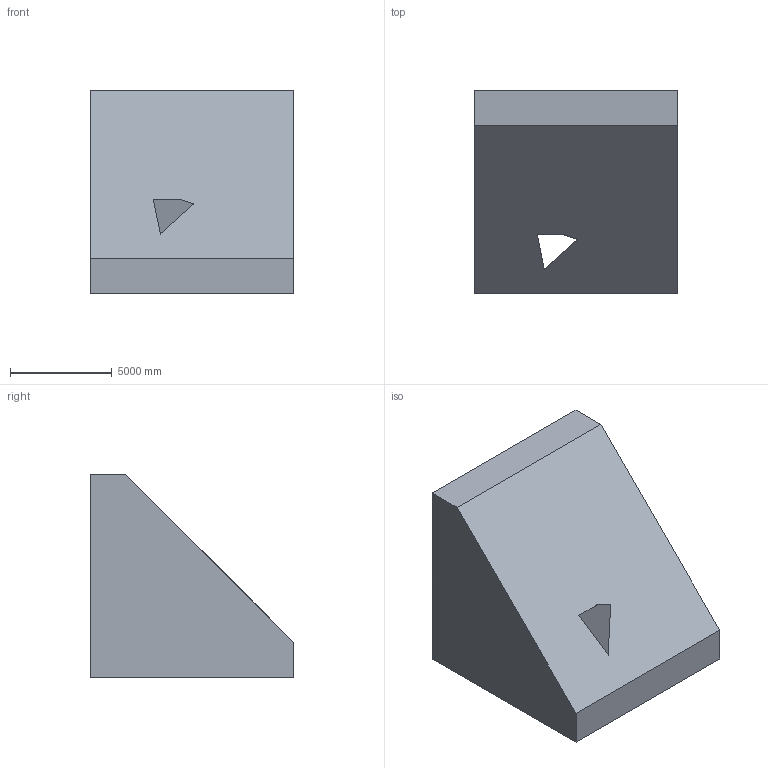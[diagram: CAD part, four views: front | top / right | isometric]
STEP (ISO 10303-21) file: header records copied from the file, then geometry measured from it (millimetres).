
FILE_DESCRIPTION (( 'STEP AP203' ), '1' );
FILE_NAME ('83.STEP', '2022-07-28T13:34:25', ( 'user' ), ( '' ), 'SwSTEP 2.0', 'SolidWorks 2021', '' );
FILE_SCHEMA (( 'CONFIG_CONTROL_DESIGN' ));
Length unit declared in the file: centimetre
Products named in the file (1): 83
Bounding box: 10000 x 10000 x 10000 mm (x, y, z)
Volume: 649804325441.5 mm3; surface area: 506050881.7 mm2
Topology: 1 solids, 1 shells, 11 faces, 27 edges, 18 vertices
Faces by surface type: plane 11
Entity records: 402 total; most frequent: CARTESIAN_POINT 57, ORIENTED_EDGE 54, DIRECTION 51, EDGE_CURVE 27, LINE 27, VECTOR 27, VERTEX_POINT 18, EDGE_LOOP 13
